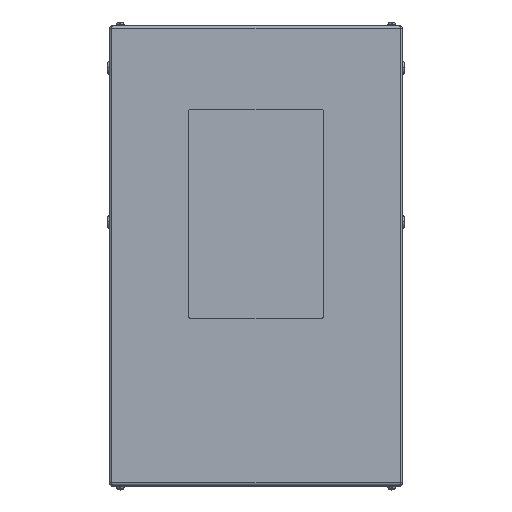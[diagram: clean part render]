
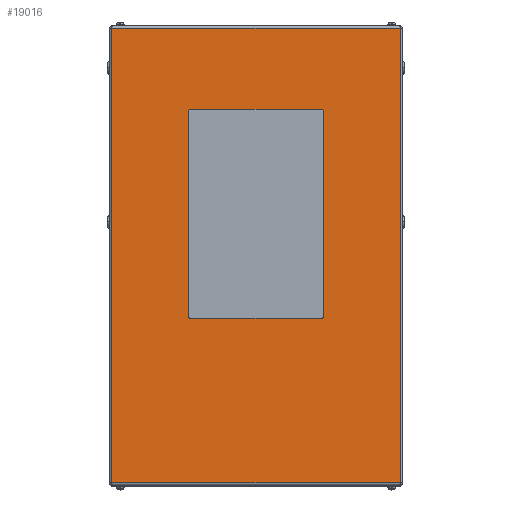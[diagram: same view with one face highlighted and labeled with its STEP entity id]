
A CAD part, top view. The second image highlights one B-rep face of the part: STEP entity #19016.
In plain terms, the highlighted planar face has unit normal (0, 0, 1).
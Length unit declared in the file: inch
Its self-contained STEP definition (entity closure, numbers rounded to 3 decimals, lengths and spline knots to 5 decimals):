
#263 = CARTESIAN_POINT ( 'NONE',  ( -6.5, -5.75, 30. ) ) ;
#522 = AXIS2_PLACEMENT_3D ( 'NONE', #23823, #5370, #18376 ) ;
#761 = LINE ( 'NONE', #9794, #20687 ) ;
#793 = LINE ( 'NONE', #8520, #18903 ) ;
#1371 = AXIS2_PLACEMENT_3D ( 'NONE', #10125, #17289, #23124 ) ;
#1378 = CARTESIAN_POINT ( 'NONE',  ( -6.25, -6., 30. ) ) ;
#1824 = VERTEX_POINT ( 'NONE', #13700 ) ;
#2064 = VERTEX_POINT ( 'NONE', #17437 ) ;
#2831 = LINE ( 'NONE', #10281, #11078 ) ;
#3072 = VERTEX_POINT ( 'NONE', #24026 ) ;
#3155 = ORIENTED_EDGE ( 'NONE', *, *, #15891, .T. ) ;
#3278 = DIRECTION ( 'NONE',  ( -1., 0., 0. ) ) ;
#3398 = FACE_BOUND ( 'NONE', #8012, .T. ) ;
#3538 = VECTOR ( 'NONE', #15039, 39.37008 ) ;
#3659 = AXIS2_PLACEMENT_3D ( 'NONE', #19294, #17462, #4618 ) ;
#3893 = DIRECTION ( 'NONE',  ( 1., 0., 0. ) ) ;
#4618 = DIRECTION ( 'NONE',  ( 1., 0., 0. ) ) ;
#5256 = VERTEX_POINT ( 'NONE', #23593 ) ;
#5306 = CARTESIAN_POINT ( 'NONE',  ( 6.5, -5.75, 30. ) ) ;
#5370 = DIRECTION ( 'NONE',  ( 0., 0., 1. ) ) ;
#5616 = ORIENTED_EDGE ( 'NONE', *, *, #22470, .F. ) ;
#5785 = ORIENTED_EDGE ( 'NONE', *, *, #13221, .F. ) ;
#6076 = LINE ( 'NONE', #22486, #19993 ) ;
#6741 = VERTEX_POINT ( 'NONE', #7508 ) ;
#6763 = ORIENTED_EDGE ( 'NONE', *, *, #7335, .F. ) ;
#7267 = CARTESIAN_POINT ( 'NONE',  ( -6.25, 14., 30. ) ) ;
#7335 = EDGE_CURVE ( 'NONE', #1824, #5256, #22635, .T. ) ;
#7421 = CARTESIAN_POINT ( 'NONE',  ( -6.25, -6., 30. ) ) ;
#7508 = CARTESIAN_POINT ( 'NONE',  ( -6.25, 14., 30. ) ) ;
#7550 = LINE ( 'NONE', #14920, #3538 ) ;
#7895 = VECTOR ( 'NONE', #11121, 39.37008 ) ;
#8012 = EDGE_LOOP ( 'NONE', ( #18765, #9350, #22539, #23483, #5616, #6763, #13802, #5785 ) ) ;
#8304 = CIRCLE ( 'NONE', #522, 0.25 ) ;
#8356 = CIRCLE ( 'NONE', #3659, 0.25 ) ;
#8520 = CARTESIAN_POINT ( 'NONE',  ( 13.8, 22., 30. ) ) ;
#8786 = CARTESIAN_POINT ( 'NONE',  ( -13.8, 21.734, 30. ) ) ;
#8794 = VERTEX_POINT ( 'NONE', #10787 ) ;
#9338 = LINE ( 'NONE', #7267, #7895 ) ;
#9350 = ORIENTED_EDGE ( 'NONE', *, *, #11833, .F. ) ;
#9585 = CARTESIAN_POINT ( 'NONE',  ( -13.8, -21.734, 30. ) ) ;
#9608 = VECTOR ( 'NONE', #12717, 39.37008 ) ;
#9794 = CARTESIAN_POINT ( 'NONE',  ( 6.5, 13.75, 30. ) ) ;
#10125 = CARTESIAN_POINT ( 'NONE',  ( -6.25, -5.75, 30. ) ) ;
#10169 = EDGE_CURVE ( 'NONE', #10688, #1824, #761, .T. ) ;
#10281 = CARTESIAN_POINT ( 'NONE',  ( -6.5, 13.75, 30. ) ) ;
#10387 = EDGE_CURVE ( 'NONE', #21686, #11631, #15216, .T. ) ;
#10688 = VERTEX_POINT ( 'NONE', #5306 ) ;
#10787 = CARTESIAN_POINT ( 'NONE',  ( 6.25, -6., 30. ) ) ;
#10899 = CARTESIAN_POINT ( 'NONE',  ( 6.25, 13.75, 30. ) ) ;
#11078 = VECTOR ( 'NONE', #23018, 39.37008 ) ;
#11121 = DIRECTION ( 'NONE',  ( -1., 0., 0. ) ) ;
#11520 = EDGE_CURVE ( 'NONE', #18676, #13442, #2831, .T. ) ;
#11631 = VERTEX_POINT ( 'NONE', #9585 ) ;
#11833 = EDGE_CURVE ( 'NONE', #13442, #22325, #22733, .T. ) ;
#12717 = DIRECTION ( 'NONE',  ( 1., 0., 0. ) ) ;
#12886 = CARTESIAN_POINT ( 'NONE',  ( 14., 22., 30. ) ) ;
#12960 = DIRECTION ( 'NONE',  ( 0., -1., 0. ) ) ;
#13221 = EDGE_CURVE ( 'NONE', #8794, #10688, #8356, .T. ) ;
#13308 = CARTESIAN_POINT ( 'NONE',  ( -13.8, 22., 30. ) ) ;
#13442 = VERTEX_POINT ( 'NONE', #263 ) ;
#13700 = CARTESIAN_POINT ( 'NONE',  ( 6.5, 13.75, 30. ) ) ;
#13802 = ORIENTED_EDGE ( 'NONE', *, *, #10169, .F. ) ;
#14332 = FACE_OUTER_BOUND ( 'NONE', #21881, .T. ) ;
#14574 = AXIS2_PLACEMENT_3D ( 'NONE', #12886, #16393, #3278 ) ;
#14668 = DIRECTION ( 'NONE',  ( -1., 0., 0. ) ) ;
#14920 = CARTESIAN_POINT ( 'NONE',  ( 14., 21.734, 30. ) ) ;
#15039 = DIRECTION ( 'NONE',  ( -1., 0., 0. ) ) ;
#15109 = EDGE_CURVE ( 'NONE', #3072, #2064, #793, .T. ) ;
#15216 = LINE ( 'NONE', #13308, #16840 ) ;
#15597 = ORIENTED_EDGE ( 'NONE', *, *, #10387, .T. ) ;
#15836 = EDGE_CURVE ( 'NONE', #6741, #18676, #8304, .T. ) ;
#15891 = EDGE_CURVE ( 'NONE', #11631, #3072, #6076, .T. ) ;
#16015 = AXIS2_PLACEMENT_3D ( 'NONE', #10899, #20763, #14668 ) ;
#16057 = CARTESIAN_POINT ( 'NONE',  ( -6.5, 13.75, 30. ) ) ;
#16393 = DIRECTION ( 'NONE',  ( 0., 0., -1. ) ) ;
#16840 = VECTOR ( 'NONE', #12960, 39.37008 ) ;
#17054 = EDGE_CURVE ( 'NONE', #2064, #21686, #7550, .T. ) ;
#17194 = DIRECTION ( 'NONE',  ( 0., 1., 0. ) ) ;
#17289 = DIRECTION ( 'NONE',  ( 0., 0., 1. ) ) ;
#17346 = DIRECTION ( 'NONE',  ( 0., 1., 0. ) ) ;
#17437 = CARTESIAN_POINT ( 'NONE',  ( 13.8, 21.734, 30. ) ) ;
#17462 = DIRECTION ( 'NONE',  ( 0., 0., 1. ) ) ;
#18058 = LINE ( 'NONE', #1378, #9608 ) ;
#18376 = DIRECTION ( 'NONE',  ( 1., 0., 0. ) ) ;
#18676 = VERTEX_POINT ( 'NONE', #16057 ) ;
#18765 = ORIENTED_EDGE ( 'NONE', *, *, #19747, .F. ) ;
#18903 = VECTOR ( 'NONE', #17346, 39.37008 ) ;
#19016 = ADVANCED_FACE ( 'NONE', ( #3398, #14332 ), #24049, .F. ) ;
#19294 = CARTESIAN_POINT ( 'NONE',  ( 6.25, -5.75, 30. ) ) ;
#19747 = EDGE_CURVE ( 'NONE', #22325, #8794, #18058, .T. ) ;
#19993 = VECTOR ( 'NONE', #3893, 39.37008 ) ;
#20687 = VECTOR ( 'NONE', #17194, 39.37008 ) ;
#20763 = DIRECTION ( 'NONE',  ( 0., 0., 1. ) ) ;
#20780 = ORIENTED_EDGE ( 'NONE', *, *, #17054, .T. ) ;
#21686 = VERTEX_POINT ( 'NONE', #8786 ) ;
#21881 = EDGE_LOOP ( 'NONE', ( #15597, #3155, #23488, #20780 ) ) ;
#22325 = VERTEX_POINT ( 'NONE', #7421 ) ;
#22470 = EDGE_CURVE ( 'NONE', #5256, #6741, #9338, .T. ) ;
#22486 = CARTESIAN_POINT ( 'NONE',  ( 13.8, -21.734, 30. ) ) ;
#22539 = ORIENTED_EDGE ( 'NONE', *, *, #11520, .F. ) ;
#22635 = CIRCLE ( 'NONE', #16015, 0.25 ) ;
#22733 = CIRCLE ( 'NONE', #1371, 0.25 ) ;
#23018 = DIRECTION ( 'NONE',  ( 0., -1., 0. ) ) ;
#23124 = DIRECTION ( 'NONE',  ( 1., 0., 0. ) ) ;
#23483 = ORIENTED_EDGE ( 'NONE', *, *, #15836, .F. ) ;
#23488 = ORIENTED_EDGE ( 'NONE', *, *, #15109, .T. ) ;
#23593 = CARTESIAN_POINT ( 'NONE',  ( 6.25, 14., 30. ) ) ;
#23823 = CARTESIAN_POINT ( 'NONE',  ( -6.25, 13.75, 30. ) ) ;
#24026 = CARTESIAN_POINT ( 'NONE',  ( 13.8, -21.734, 30. ) ) ;
#24049 = PLANE ( 'NONE',  #14574 ) ;
